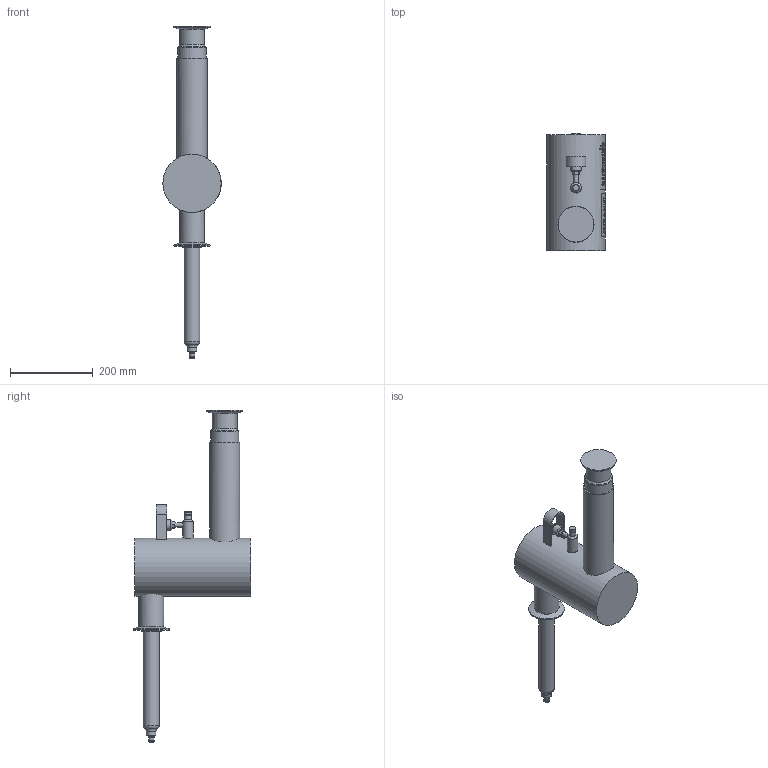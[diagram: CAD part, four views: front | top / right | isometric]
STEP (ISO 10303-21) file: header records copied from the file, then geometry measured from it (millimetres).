
FILE_DESCRIPTION (( 'STEP AP203' ), '1' );
FILE_NAME ('CA00100-TF.step', '2025-12-17T20:01:10', ( '' ), ( '' ), 'SwSTEP 2.0', 'SolidWorks 2023', '' );
FILE_SCHEMA (( 'CONFIG_CONTROL_DESIGN' ));
Length unit declared in the file: inch
Products named in the file (1): CA00100-TF
Bounding box: 141.3 x 284.95 x 804.34 mm (x, y, z)
Volume: 6237969 mm3; surface area: 311119.5 mm2
Topology: 1 solids, 1 shells, 673 faces, 1691 edges, 1120 vertices
Faces by surface type: plane 414, cylinder 177, bspline 53, torus 21, cone 8
Full cylindrical faces by diameter (mm): 1.494 x1, 1.636 x1, 1.778 x1, 1.935 x4, 2.039 x1, 2.302 x1, 2.967 x1, 3.071 x1, 3.409 x1, 3.632 x1, 3.807 x1, 4.009 x1, 4.573 x1, 6.177 x1, 7.63 x1, 7.722 x1, 9.232 x1, 10.16 x1, 10.236 x2, 10.287 x1, 10.749 x1, 12.7 x1, 15.748 x2, 23.012 x1, 24.638 x1, 25.4 x1, 26.873 x1, 30.988 x1, 38.227 x1, 48.59 x1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
Entity records: 28050 total; most frequent: CARTESIAN_POINT 13496, ORIENTED_EDGE 3182, DIRECTION 2540, EDGE_CURVE 1591, VERTEX_POINT 1101, AXIS2_PLACEMENT_3D 864, EDGE_LOOP 856, LINE 812
